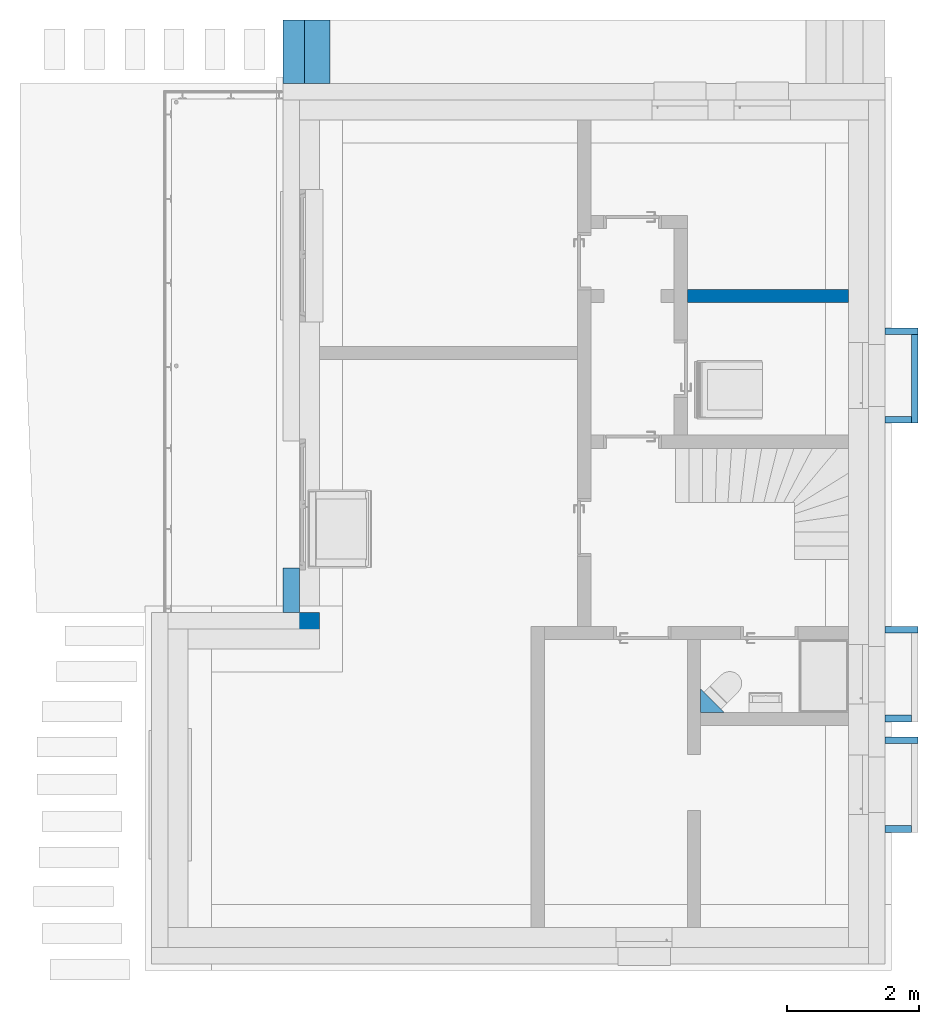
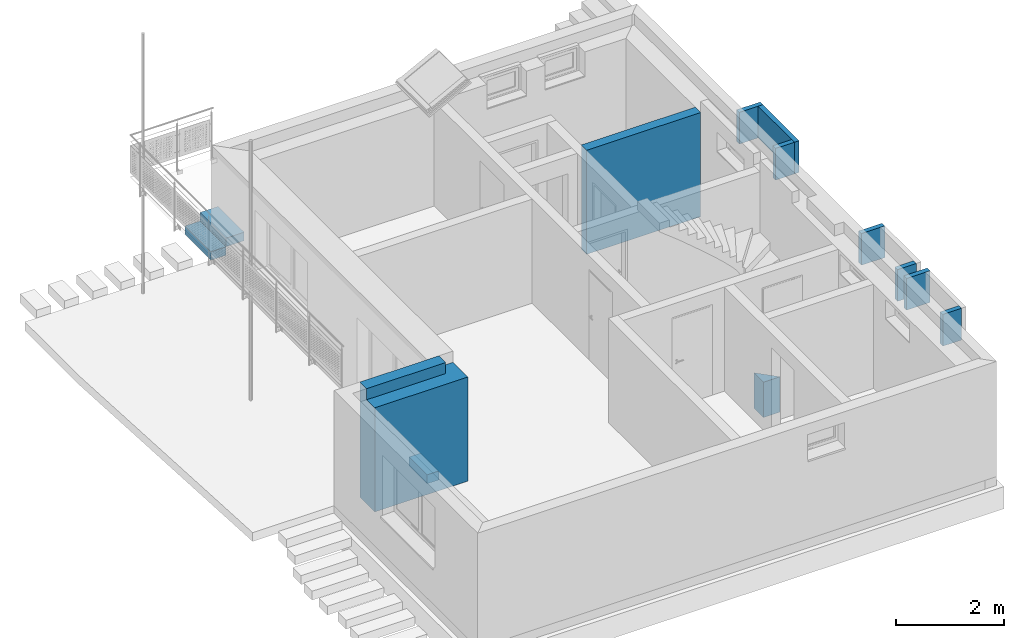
# One storey, part 13 of 22: 11 walls, 1 stair flight, 1 element without a shape of its own.
"""IFC2X3 building model written with IfcOpenShell, lengths in metres."""

from ifc_helpers import new_model, entity, si_unit, converted_unit, derived_unit, direction, frame, frame_2d, origin, place, context, subcontext, project, spatial, polyline, rectangle, outline, extrude, clip, bounded_halfspace, faceted_brep, material, layer, layer_set, layer_usage, type_object, element, aggregate, save


model = new_model("IFC2X3")

# Units and contexts
model_context = context("Model", 3, precision=1e-05, world=origin(), true_north=direction((6.123233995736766e-17, 1.0)))
body_context = subcontext(model_context, "Body", "Model", "MODEL_VIEW")
ifc_project = project(units=[si_unit("LENGTHUNIT", "METRE"), si_unit("AREAUNIT", "SQUARE_METRE"), si_unit("VOLUMEUNIT", "CUBIC_METRE"), si_unit("POWERUNIT", "WATT"), derived_unit("USERDEFINED", [(si_unit("MASSUNIT", "GRAM", prefix="KILO"), 1), (si_unit("TIMEUNIT", "SECOND"), -3)]), derived_unit("THERMALRESISTANCEUNIT", [(si_unit("MASSUNIT", "GRAM", prefix="KILO"), -1), (si_unit("TIMEUNIT", "SECOND"), 3), (si_unit("THERMODYNAMICTEMPERATUREUNIT", "KELVIN"), 1)]), derived_unit("USERDEFINED", [(si_unit("MASSUNIT", "GRAM", prefix="KILO"), 1), (si_unit("TIMEUNIT", "SECOND"), -2), (si_unit("THERMODYNAMICTEMPERATUREUNIT", "KELVIN"), -1)]), derived_unit("THERMALTRANSMITTANCEUNIT", [(si_unit("MASSUNIT", "GRAM", prefix="KILO"), 1), (si_unit("TIMEUNIT", "SECOND"), -3), (si_unit("THERMODYNAMICTEMPERATUREUNIT", "KELVIN"), -1)]), converted_unit("PLANEANGLEUNIT", "DEGREE", entity("IfcPlaneAngleMeasure", 0.017453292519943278), si_unit("PLANEANGLEUNIT", "RADIAN"), dimensions=[0, 0, 0, 0, 0, 0, 0]), derived_unit("MOMENTOFINERTIAUNIT", [(si_unit("LENGTHUNIT", "METRE"), 4)])], contexts=[model_context])

# Site, building, storey
site_placement = place(None, origin())
site = spatial("IfcSite", under=ifc_project, at=site_placement, Name="Default", CompositionType="ELEMENT")
building_placement = place(site_placement, origin())
building = spatial("IfcBuilding", under=site, at=building_placement, CompositionType="ELEMENT")
storey_placement = place(building_placement, origin())
storey = spatial("IfcBuildingStorey", under=building, at=storey_placement, Name="Untergeschoss", CompositionType="ELEMENT", Elevation=0.0)

# Walls
ifc_material_1 = material(Name="Dämmung - hart")
ifc_layer_1 = layer(ifc_material_1, 0.24999999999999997)
ifc_material_2 = material(Name="Mauerwerk - Ziegel")
ifc_layer_2 = layer(ifc_material_2, 0.29999999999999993)
ifc_layer_set_1 = layer_set([ifc_layer_1, ifc_layer_2], Name="Basiswand:Ziegel+WD hart 300+250")
wall_type_1 = type_object("IfcWallType", Name="Basiswand:Ziegel+WD hart 300+250", PredefinedType="STANDARD", material=ifc_layer_set_1)
wall_1_placement = place(storey_placement, frame((28.100841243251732, 20.32727237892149, 0.0)))
element("IfcWall", 1, at=wall_1_placement, inside=storey, type_object=wall_type_1, Name="Basiswand:Ziegel+WD hart 300+250", ObjectType="Basiswand:Ziegel+WD hart 300+250", context=body_context, shape_type="Brep", body=[
    faceted_brep([(0.0, -0.27500000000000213, 0.0), (1.9858787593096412, -0.27500000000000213, 0.0), (1.9858787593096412, -0.27500000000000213, 2.35), (0.0, -0.27500000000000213, 2.35), (1.985878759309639, 0.2749999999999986, 0.0), (0.0, 0.2749999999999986, 0.0), (0.0, 0.2749999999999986, 2.6), (1.6858787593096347, 0.27500000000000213, 2.6), (1.6858787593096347, 0.27500000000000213, 2.35), (1.985878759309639, 0.2749999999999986, 2.35), (0.0, 0.025000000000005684, 2.6), (1.6858787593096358, 0.02500000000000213, 2.6), (0.0, 0.025000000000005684, 2.35), (1.6858787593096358, 0.02500000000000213, 2.35)], [[[0, 1, 2, 3]], [[4, 5, 6, 7, 8, 9]], [[1, 0, 5, 4]], [[7, 6, 10, 11]], [[6, 5, 0, 3, 12, 10]], [[1, 4, 9, 2]], [[8, 13, 12, 3, 2, 9]], [[13, 11, 10, 12]], [[11, 13, 8, 7]]]),
])
ifc_layer_3 = layer(ifc_material_2, 0.2)
ifc_layer_set_2 = layer_set([ifc_layer_3], Name="Basiswand:Ziegel 200")
ifc_layer_usage_1 = layer_usage(ifc_layer_set_2, "AXIS2", "NEGATIVE", 0.1)
wall_type_2 = type_object("IfcWallType", Name="Basiswand:Ziegel 200", PredefinedType="STANDARD", material=ifc_layer_set_2)
wall_2_placement = place(storey_placement, frame((35.643754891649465, 25.382272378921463, 0.0)))
element("IfcWallStandardCase", 2, at=wall_2_placement, inside=storey, type_object=wall_type_2, material=ifc_layer_usage_1, Name="Basiswand:Ziegel 200", ObjectType="Basiswand:Ziegel 200", context=body_context, shape_type="Clipping", body=[
    clip(extrude(rectangle(XDim=2.432965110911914, YDim=0.19999999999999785, at=frame_2d((1.216482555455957, -1.249000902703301e-16), x_axis=(-1.0, 0.0))), origin(), (0.0, 0.0, 1.0), 2.35), bounded_halfspace(frame((0.0, -0.10000000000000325, 2.35), z_axis=(0.0, 0.0, -1.0), x_axis=(1.0, 0.0, 0.0)), True, frame((0.0, -0.10000000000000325, 2.35)), polyline([(0.0, 0.0), (2.4329651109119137, 0.0), (2.4329651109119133, 0.20000000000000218), (0.0, 0.20000000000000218), (0.0, 0.0)]))),
])
ifc_material_3 = material(Name="Dämmung - weich")
ifc_layer_4 = layer(ifc_material_3, 0.24999999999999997)
ifc_layer_set_3 = layer_set([ifc_layer_4], Name="Basiswand:WD weich 250")
ifc_layer_usage_2 = layer_usage(ifc_layer_set_3, "AXIS2", "NEGATIVE", 0.12499999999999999)
wall_type_3 = type_object("IfcWallType", Name="Basiswand:WD weich 250", PredefinedType="STANDARD", material=ifc_layer_set_3)
wall_3_placement = place(storey_placement, frame((29.661720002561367, 20.60227237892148, -0.2), z_axis=(0.0, 0.0, 1.0), x_axis=(0.0, 1.0, 0.0)))
element("IfcWallStandardCase", 3, at=wall_3_placement, inside=storey, type_object=wall_type_3, material=ifc_layer_usage_2, Name="Basiswand:WD weich 250", ObjectType="Basiswand:WD weich 250", context=body_context, shape_type="SweptSolid", body=[
    extrude(rectangle(XDim=0.6700000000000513, YDim=0.25000000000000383, at=frame_2d((0.33500000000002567, -1.339206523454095e-15), x_axis=(-1.0, 0.0))), origin(), (0.0, 0.0, 1.0), 0.2),
])
ifc_layer_5 = layer(ifc_material_2, 0.24999999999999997)
ifc_layer_set_4 = layer_set([ifc_layer_5], Name="Basiswand:Ziegel 250")
ifc_layer_usage_3 = layer_usage(ifc_layer_set_4, "AXIS2", "NEGATIVE", 0.12499999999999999)
wall_type_4 = type_object("IfcWallType", Name="Basiswand:Ziegel 250", PredefinedType="STANDARD", material=ifc_layer_set_4)
wall_4_placement = place(storey_placement, frame((35.75536654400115, 19.358884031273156, 0.0), z_axis=(0.0, 0.0, 1.0), x_axis=(0.7071067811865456, -0.7071067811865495, 0.0)))
element("IfcWallStandardCase", 4, at=wall_4_placement, inside=storey, type_object=wall_type_4, material=ifc_layer_usage_3, Name="Basiswand:Ziegel 250", ObjectType="Basiswand:Ziegel 250", context=body_context, shape_type="SweptSolid", body=[
    extrude(outline(polyline([(0.2520458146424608, -0.12500000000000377), (0.5020458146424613, 0.12499999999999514), (0.0, 0.12499999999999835), (0.2500000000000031, -0.12500000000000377), (0.2520458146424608, -0.12500000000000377)])), origin(), (0.0, 0.0, 1.0), 0.8),
])
ifc_material_4 = material(Name="Ortbeton - bewehrt Verputzt")
ifc_layer_6 = layer(ifc_material_4, 0.1)
ifc_layer_set_5 = layer_set([ifc_layer_6], Name="Basiswand:STB 100")
ifc_layer_usage_4 = layer_usage(ifc_layer_set_5, "AXIS2", "POSITIVE", -0.05)
wall_type_5 = type_object("IfcWallType", Name="Basiswand:STB 100", PredefinedType="STANDARD", material=ifc_layer_set_5)
wall_5_placement = place(storey_placement, frame((38.626720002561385, 24.852272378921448, 1.734960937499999)))
element("IfcWallStandardCase", 5, at=wall_5_placement, inside=storey, type_object=wall_type_5, material=ifc_layer_usage_4, Name="Basiswand:STB 100", ObjectType="Basiswand:STB 100", context=body_context, shape_type="SweptSolid", body=[
    extrude(rectangle(XDim=0.4999999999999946, YDim=0.10000000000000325, at=frame_2d((0.2499999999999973, 0.0), x_axis=(-1.0, 0.0))), origin(), (0.0, 0.0, 1.0), 0.7158259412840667),
])
ifc_layer_usage_5 = layer_usage(ifc_layer_set_5, "AXIS2", "POSITIVE", -0.05)
wall_6_placement = place(storey_placement, frame((39.07672000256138, 24.80227237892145, 1.734960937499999), z_axis=(0.0, 0.0, 1.0), x_axis=(0.0, -1.0, 0.0)))
element("IfcWallStandardCase", 6, at=wall_6_placement, inside=storey, type_object=wall_type_5, material=ifc_layer_usage_5, Name="Basiswand:STB 100", ObjectType="Basiswand:STB 100", context=body_context, shape_type="SweptSolid", body=[
    extrude(rectangle(XDim=1.3400000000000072, YDim=0.0999999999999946, at=frame_2d((0.6700000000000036, 0.0), x_axis=(-1.0, 0.0))), origin(), (0.0, 0.0, 1.0), 0.7158259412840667),
])
ifc_layer_usage_6 = layer_usage(ifc_layer_set_5, "AXIS2", "POSITIVE", -0.05)
wall_7_placement = place(storey_placement, frame((39.026720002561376, 23.512272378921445, 1.734960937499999), z_axis=(0.0, 0.0, 1.0), x_axis=(-1.0, 0.0, 0.0)))
element("IfcWallStandardCase", 7, at=wall_7_placement, inside=storey, type_object=wall_type_5, material=ifc_layer_usage_6, Name="Basiswand:STB 100", ObjectType="Basiswand:STB 100", context=body_context, shape_type="SweptSolid", body=[
    extrude(rectangle(XDim=0.3999999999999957, YDim=0.10000000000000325, at=frame_2d((0.19999999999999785, 0.0), x_axis=(-1.0, 0.0))), origin(), (0.0, 0.0, 1.0), 0.7158259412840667),
])
ifc_layer_usage_7 = layer_usage(ifc_layer_set_5, "AXIS2", "POSITIVE", -0.05)
wall_8_placement = place(storey_placement, frame((38.62672000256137, 20.342272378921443, 1.734960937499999)))
element("IfcWallStandardCase", 8, at=wall_8_placement, inside=storey, type_object=wall_type_5, material=ifc_layer_usage_7, Name="Basiswand:STB 100", ObjectType="Basiswand:STB 100", context=body_context, shape_type="SweptSolid", body=[
    extrude(rectangle(XDim=0.4999999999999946, YDim=0.10000000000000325, at=frame_2d((0.2499999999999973, 0.0), x_axis=(-1.0, 0.0))), origin(), (0.0, 0.0, 1.0), 0.7158259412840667),
])
ifc_layer_usage_8 = layer_usage(ifc_layer_set_5, "AXIS2", "POSITIVE", -0.05)
wall_9_placement = place(storey_placement, frame((39.02672000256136, 19.00227237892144, 1.734960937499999), z_axis=(0.0, 0.0, 1.0), x_axis=(-1.0, 0.0, 0.0)))
element("IfcWallStandardCase", 9, at=wall_9_placement, inside=storey, type_object=wall_type_5, material=ifc_layer_usage_8, Name="Basiswand:STB 100", ObjectType="Basiswand:STB 100", context=body_context, shape_type="SweptSolid", body=[
    extrude(rectangle(XDim=0.3999999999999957, YDim=0.09999999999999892, at=frame_2d((0.19999999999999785, 0.0), x_axis=(-1.0, 0.0))), origin(), (0.0, 0.0, 1.0), 0.7158259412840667),
])
ifc_layer_usage_9 = layer_usage(ifc_layer_set_5, "AXIS2", "POSITIVE", -0.05)
wall_10_placement = place(storey_placement, frame((38.62672000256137, 18.67227237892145, 1.734960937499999)))
element("IfcWallStandardCase", 10, at=wall_10_placement, inside=storey, type_object=wall_type_5, material=ifc_layer_usage_9, Name="Basiswand:STB 100", ObjectType="Basiswand:STB 100", context=body_context, shape_type="SweptSolid", body=[
    extrude(rectangle(XDim=0.4999999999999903, YDim=0.09999999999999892, at=frame_2d((0.24999999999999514, 0.0), x_axis=(-1.0, 0.0))), origin(), (0.0, 0.0, 1.0), 0.7158259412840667),
])
ifc_layer_usage_10 = layer_usage(ifc_layer_set_5, "AXIS2", "POSITIVE", -0.05)
wall_11_placement = place(storey_placement, frame((39.026720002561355, 17.33227237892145, 1.734960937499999), z_axis=(0.0, 0.0, 1.0), x_axis=(-1.0, 0.0, 0.0)))
element("IfcWallStandardCase", 11, at=wall_11_placement, inside=storey, type_object=wall_type_5, material=ifc_layer_usage_10, Name="Basiswand:STB 100", ObjectType="Basiswand:STB 100", context=body_context, shape_type="SweptSolid", body=[
    extrude(rectangle(XDim=0.39999999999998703, YDim=0.09999999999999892, at=frame_2d((0.19999999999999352, 0.0), x_axis=(-1.0, 0.0))), origin(), (0.0, 0.0, 1.0), 0.7158259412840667),
])

# Stair, stair flight
type_product = type_object("IfcTypeProduct", Name="Betonfertigteil-Treppe:Fertigbetontreppe - 1 Stockwerkstrennlinie")
stair_placement = place(storey_placement, origin())
stair = element("IfcStair", 12, at=stair_placement, inside=storey, type_object=type_product, Name="Betonfertigteil-Treppe:Treppe", ObjectType="Betonfertigteil-Treppe:Fertigbetontreppe - 1 Stockwerkstrennlinie", ShapeType="STRAIGHT_RUN_STAIR")
ifc_material_5 = material(Name="Betonfertigteil - mit Dämmeigenschaften")
stair_flight_type = type_object("IfcStairFlightType", Name="Massivtreppenlauf:Naturstein - Auftritt 40 / Trittüberstand 30", PredefinedType="NOTDEFINED")
stair_flight_placement = place(stair_placement, frame((29.53672000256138, 28.59227237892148, 0.0)))
stair_flight = element("IfcStairFlight", 13, at=stair_flight_placement, type_object=stair_flight_type, material=ifc_material_5, Name="Betonfertigteil-Treppe:Treppe:2695865 Run 1", ObjectType="Massivtreppenlauf:Naturstein - Auftritt 40 / Trittüberstand 30", NumberOfRiser=3, NumberOfTreads=2, RiserHeight=0.6300853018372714, TreadLength=0.8231627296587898, context=body_context, shape_type="Brep", body=[
    faceted_brep([(0.3200000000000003, 0.9600000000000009, 0.19205000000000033), (0.0, 0.9600000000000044, 0.19205000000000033), (0.0, 0.0, 0.19205000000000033), (0.3200000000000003, 0.0, 0.19205000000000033), (0.3200000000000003, 0.9600000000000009, 0.1916000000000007), (0.3200000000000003, 0.9600000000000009, 0.0), (0.0, 0.9600000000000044, 0.0), (0.0, 0.0, 0.0), (0.3200000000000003, 0.0, 0.0), (0.3200000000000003, 0.0, 0.1916000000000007), (0.7083693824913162, 0.9600000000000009, 0.38410000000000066), (0.3200000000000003, 0.9600000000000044, 0.38410000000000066), (0.3200000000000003, 0.0, 0.38410000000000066), (0.7083693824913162, 0.0, 0.38410000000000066), (0.7083693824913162, 0.9600000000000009, 0.1916000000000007), (0.7083693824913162, 0.0, 0.1916000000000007)], [[[0, 1, 2, 3]], [[1, 0, 4, 5, 6]], [[2, 1, 6, 7]], [[3, 2, 7, 8, 9]], [[10, 11, 12, 13]], [[11, 10, 14, 4, 0]], [[0, 3, 12, 11]], [[13, 12, 3, 9, 15]], [[10, 13, 15, 14]], [[6, 5, 8, 7]], [[4, 9, 8, 5]], [[9, 4, 14, 15]]]),
])
aggregate(stair, [stair_flight])

save(model, "model.ifc")
